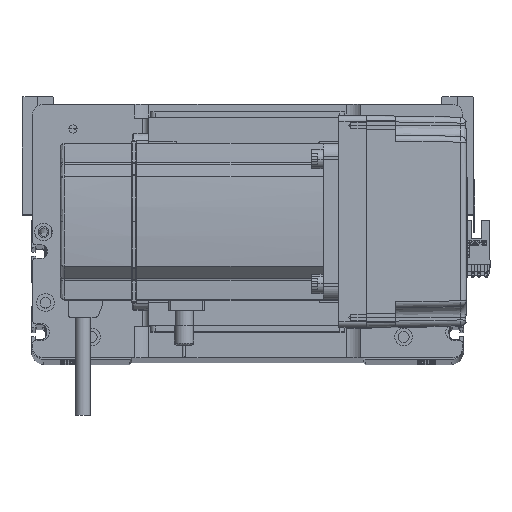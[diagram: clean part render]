
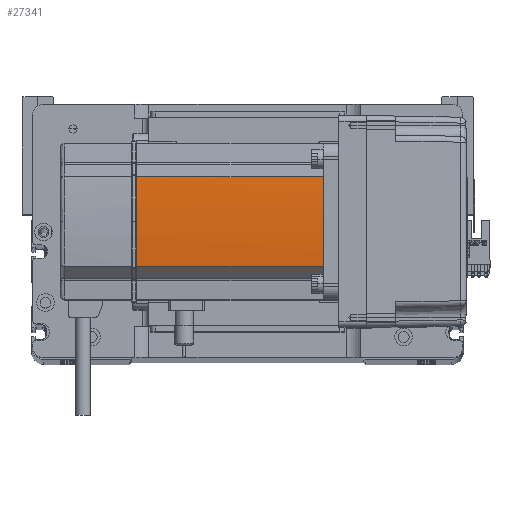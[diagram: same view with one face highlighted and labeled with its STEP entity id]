
A CAD part, top view. The second image highlights one B-rep face of the part: STEP entity #27341.
In plain terms, the highlighted cylindrical face has radius 270 mm (diameter 540 mm), a partial arc.
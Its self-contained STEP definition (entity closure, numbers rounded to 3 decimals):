
#1482 = DIRECTION ( 'NONE',  ( 1., 0., 0. ) ) ;
#1611 = DIRECTION ( 'NONE',  ( 0., 0., -1. ) ) ;
#2376 = VERTEX_POINT ( 'NONE', #44295 ) ;
#2704 = EDGE_CURVE ( 'NONE', #18895, #2376, #3838, .T. ) ;
#2847 = ORIENTED_EDGE ( 'NONE', *, *, #2704, .F. ) ;
#3838 = CIRCLE ( 'NONE', #8526, 270. ) ;
#3853 = VERTEX_POINT ( 'NONE', #14594 ) ;
#4878 = CIRCLE ( 'NONE', #46162, 270. ) ;
#5499 = CARTESIAN_POINT ( 'NONE',  ( -39.042, -22.724, 39. ) ) ;
#7889 = ORIENTED_EDGE ( 'NONE', *, *, #49694, .T. ) ;
#8526 = AXIS2_PLACEMENT_3D ( 'NONE', #22190, #1611, #22911 ) ;
#9797 = CARTESIAN_POINT ( 'NONE',  ( 230., 0., 134. ) ) ;
#9965 = LINE ( 'NONE', #48942, #33188 ) ;
#10314 = VERTEX_POINT ( 'NONE', #13738 ) ;
#11193 = CARTESIAN_POINT ( 'NONE',  ( -39.042, -22.724, 0. ) ) ;
#13738 = CARTESIAN_POINT ( 'NONE',  ( -40., 0., 134. ) ) ;
#14594 = CARTESIAN_POINT ( 'NONE',  ( -39.042, -22.724, 134. ) ) ;
#16417 = DIRECTION ( 'NONE',  ( 0., 0., -1. ) ) ;
#16850 = EDGE_LOOP ( 'NONE', ( #39162, #47011, #7889, #2847, #29368 ) ) ;
#18528 = DIRECTION ( 'NONE',  ( 0., 0., 1. ) ) ;
#18895 = VERTEX_POINT ( 'NONE', #5499 ) ;
#19569 = LINE ( 'NONE', #11193, #26587 ) ;
#22190 = CARTESIAN_POINT ( 'NONE',  ( 230., 0., 39. ) ) ;
#22355 = FACE_OUTER_BOUND ( 'NONE', #16850, .T. ) ;
#22911 = DIRECTION ( 'NONE',  ( 1., 0., 0. ) ) ;
#22936 = DIRECTION ( 'NONE',  ( 0., 0., 1. ) ) ;
#23248 = CARTESIAN_POINT ( 'NONE',  ( 230., 0., 0. ) ) ;
#26587 = VECTOR ( 'NONE', #22936, 1000. ) ;
#26590 = DIRECTION ( 'NONE',  ( 1., 0., 0. ) ) ;
#27341 = ADVANCED_FACE ( 'NONE', ( #22355 ), #30722, .T. ) ;
#27561 = VERTEX_POINT ( 'NONE', #53357 ) ;
#29368 = ORIENTED_EDGE ( 'NONE', *, *, #42346, .T. ) ;
#30722 = CYLINDRICAL_SURFACE ( 'NONE', #36053, 270. ) ;
#31292 = EDGE_CURVE ( 'NONE', #10314, #27561, #43959, .T. ) ;
#32833 = CARTESIAN_POINT ( 'NONE',  ( 230., 0., 134. ) ) ;
#33188 = VECTOR ( 'NONE', #16417, 1000. ) ;
#34843 = DIRECTION ( 'NONE',  ( 0., 0., -1. ) ) ;
#36053 = AXIS2_PLACEMENT_3D ( 'NONE', #23248, #18528, #26590 ) ;
#39162 = ORIENTED_EDGE ( 'NONE', *, *, #41064, .T. ) ;
#41064 = EDGE_CURVE ( 'NONE', #3853, #10314, #4878, .T. ) ;
#41331 = DIRECTION ( 'NONE',  ( 0., 0., -1. ) ) ;
#42346 = EDGE_CURVE ( 'NONE', #18895, #3853, #19569, .T. ) ;
#43959 = CIRCLE ( 'NONE', #49276, 270. ) ;
#44295 = CARTESIAN_POINT ( 'NONE',  ( -39.042, 22.724, 39. ) ) ;
#46162 = AXIS2_PLACEMENT_3D ( 'NONE', #32833, #41331, #49465 ) ;
#47011 = ORIENTED_EDGE ( 'NONE', *, *, #31292, .T. ) ;
#48942 = CARTESIAN_POINT ( 'NONE',  ( -39.042, 22.724, 0. ) ) ;
#49276 = AXIS2_PLACEMENT_3D ( 'NONE', #9797, #34843, #1482 ) ;
#49465 = DIRECTION ( 'NONE',  ( 1., 0., 0. ) ) ;
#49694 = EDGE_CURVE ( 'NONE', #27561, #2376, #9965, .T. ) ;
#53357 = CARTESIAN_POINT ( 'NONE',  ( -39.042, 22.724, 134. ) ) ;
